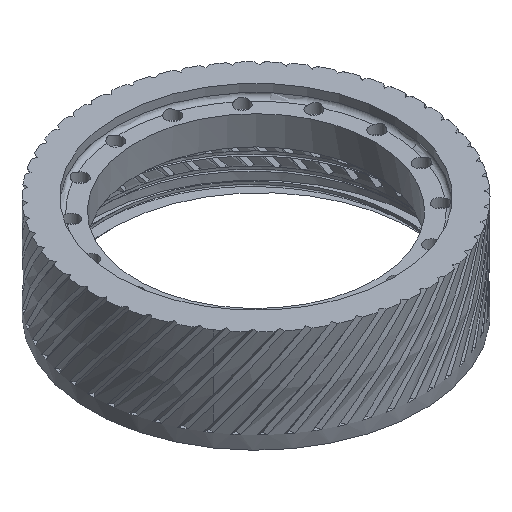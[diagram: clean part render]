
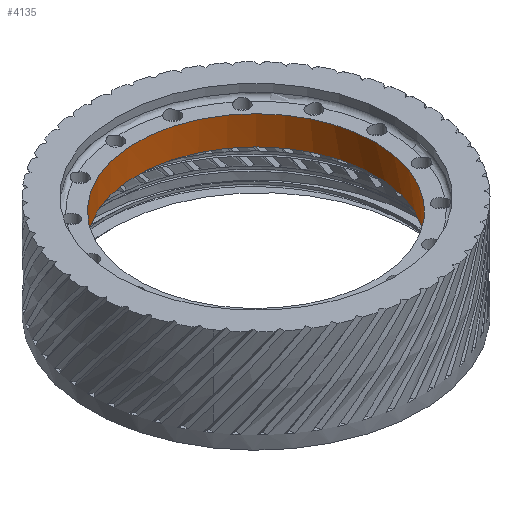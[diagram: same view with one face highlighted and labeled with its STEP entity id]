
A CAD part, isometric view. The second image highlights one B-rep face of the part: STEP entity #4135.
In plain terms, the highlighted cylindrical face has radius 27 mm (diameter 54 mm), a full revolution.
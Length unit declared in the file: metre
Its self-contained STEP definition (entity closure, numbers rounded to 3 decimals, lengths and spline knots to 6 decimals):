
#391=CYLINDRICAL_SURFACE('',#4549,0.027);
#1331=ORIENTED_EDGE('',*,*,#2306,.T.);
#1332=ORIENTED_EDGE('',*,*,#2323,.F.);
#2306=EDGE_CURVE('',#3004,#3004,#3424,.T.);
#2323=EDGE_CURVE('',#3005,#3005,#3441,.T.);
#3004=VERTEX_POINT('',#5674);
#3005=VERTEX_POINT('',#5693);
#3424=CIRCLE('',#4415,0.027);
#3441=CIRCLE('',#4433,0.027);
#3584=EDGE_LOOP('',(#1331));
#3585=EDGE_LOOP('',(#1332));
#3863=FACE_BOUND('',#3584,.T.);
#3864=FACE_BOUND('',#3585,.T.);
#4135=ADVANCED_FACE('',(#3863,#3864),#391,.F.);
#4415=AXIS2_PLACEMENT_3D('',#5673,#4723,#4724);
#4433=AXIS2_PLACEMENT_3D('',#5692,#4759,#4760);
#4549=AXIS2_PLACEMENT_3D('',#8399,#4991,#4992);
#4723=DIRECTION('',(0.,0.,-1.));
#4724=DIRECTION('',(0.819,0.574,0.));
#4759=DIRECTION('',(0.,0.,-1.));
#4760=DIRECTION('',(1.,0.,0.));
#4991=DIRECTION('',(0.,0.,-1.));
#4992=DIRECTION('',(0.819,0.574,0.));
#5673=CARTESIAN_POINT('',(0.,0.,0.067303));
#5674=CARTESIAN_POINT('',(0.022117,0.015487,0.067303));
#5692=CARTESIAN_POINT('',(0.,0.,0.0738));
#5693=CARTESIAN_POINT('',(0.027,0.,0.0738));
#8399=CARTESIAN_POINT('',(0.,0.,0.0678));
